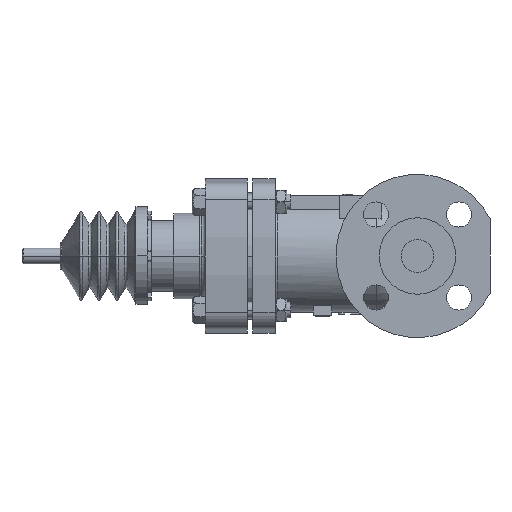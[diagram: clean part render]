
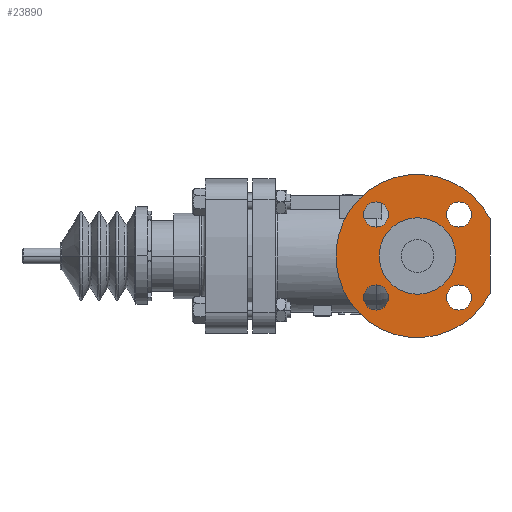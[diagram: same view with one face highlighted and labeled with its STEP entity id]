
A CAD part, left-side view. The second image highlights one B-rep face of the part: STEP entity #23890.
In plain terms, the highlighted planar face has unit normal (-1, 0, 0).
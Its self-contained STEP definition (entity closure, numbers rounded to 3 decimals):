
#7134=CARTESIAN_POINT('',(-88.,0.,0.));
#7135=DIRECTION('',(1.,0.,0.));
#7136=DIRECTION('',(0.,1.,0.));
#7137=AXIS2_PLACEMENT_3D('',#7134,#7135,#7136);
#7139=CARTESIAN_POINT('',(-88.,0.,0.));
#7140=DIRECTION('',(-1.,0.,0.));
#7141=DIRECTION('',(0.,1.,0.));
#7142=AXIS2_PLACEMENT_3D('',#7139,#7140,#7141);
#7144=DIRECTION('',(0.,0.,1.));
#7145=VECTOR('',#7144,56.802);
#7146=CARTESIAN_POINT('',(-88.,-55.,-28.401));
#7147=LINE('',#7146,#7145);
#7148=CARTESIAN_POINT('',(-88.,31.466,31.466));
#7149=DIRECTION('',(1.,0.,0.));
#7150=DIRECTION('',(0.,1.,0.));
#7151=AXIS2_PLACEMENT_3D('',#7148,#7149,#7150);
#7153=CARTESIAN_POINT('',(-88.,31.466,31.466));
#7154=DIRECTION('',(1.,0.,0.));
#7155=DIRECTION('',(0.,-1.,0.));
#7156=AXIS2_PLACEMENT_3D('',#7153,#7154,#7155);
#7158=CARTESIAN_POINT('',(-88.,31.466,-31.466));
#7159=DIRECTION('',(1.,0.,0.));
#7160=DIRECTION('',(0.,0.,-1.));
#7161=AXIS2_PLACEMENT_3D('',#7158,#7159,#7160);
#7163=CARTESIAN_POINT('',(-88.,31.466,-31.466));
#7164=DIRECTION('',(1.,0.,0.));
#7165=DIRECTION('',(0.,0.,1.));
#7166=AXIS2_PLACEMENT_3D('',#7163,#7164,#7165);
#7168=CARTESIAN_POINT('',(-88.,-31.466,-31.466));
#7169=DIRECTION('',(1.,0.,0.));
#7170=DIRECTION('',(0.,-1.,0.));
#7171=AXIS2_PLACEMENT_3D('',#7168,#7169,#7170);
#7173=CARTESIAN_POINT('',(-88.,-31.466,-31.466));
#7174=DIRECTION('',(1.,0.,0.));
#7175=DIRECTION('',(0.,1.,0.));
#7176=AXIS2_PLACEMENT_3D('',#7173,#7174,#7175);
#7178=CARTESIAN_POINT('',(-88.,-31.466,31.466));
#7179=DIRECTION('',(1.,0.,0.));
#7180=DIRECTION('',(0.,0.,1.));
#7181=AXIS2_PLACEMENT_3D('',#7178,#7179,#7180);
#7183=CARTESIAN_POINT('',(-88.,-31.466,31.466));
#7184=DIRECTION('',(1.,0.,0.));
#7185=DIRECTION('',(0.,0.,-1.));
#7186=AXIS2_PLACEMENT_3D('',#7183,#7184,#7185);
#7393=CARTESIAN_POINT('',(-88.,0.,0.));
#7394=DIRECTION('',(-1.,0.,0.));
#7395=DIRECTION('',(0.,-0.889,0.459));
#7396=AXIS2_PLACEMENT_3D('',#7393,#7394,#7395);
#10357=CARTESIAN_POINT('',(-88.,29.,0.));
#10359=VERTEX_POINT('',#10357);
#10365=CARTESIAN_POINT('',(-88.,-29.,0.));
#10367=VERTEX_POINT('',#10365);
#10746=CARTESIAN_POINT('',(-88.,-55.,-28.401));
#10747=CARTESIAN_POINT('',(-88.,-55.,28.401));
#10748=VERTEX_POINT('',#10746);
#10749=VERTEX_POINT('',#10747);
#10877=CARTESIAN_POINT('',(-88.,40.966,31.466));
#10878=CARTESIAN_POINT('',(-88.,21.966,31.466));
#10879=VERTEX_POINT('',#10877);
#10880=VERTEX_POINT('',#10878);
#10885=CARTESIAN_POINT('',(-88.,31.466,-40.966));
#10886=CARTESIAN_POINT('',(-88.,31.466,-21.966));
#10887=VERTEX_POINT('',#10885);
#10888=VERTEX_POINT('',#10886);
#10893=CARTESIAN_POINT('',(-88.,-40.966,-31.466));
#10894=CARTESIAN_POINT('',(-88.,-21.966,-31.466));
#10895=VERTEX_POINT('',#10893);
#10896=VERTEX_POINT('',#10894);
#10901=CARTESIAN_POINT('',(-88.,-31.466,40.966));
#10902=CARTESIAN_POINT('',(-88.,-31.466,21.966));
#10903=VERTEX_POINT('',#10901);
#10904=VERTEX_POINT('',#10902);
#23850=CARTESIAN_POINT('',(-88.,0.,0.));
#23851=DIRECTION('',(-1.,0.,0.));
#23852=DIRECTION('',(0.,-1.,0.));
#23853=AXIS2_PLACEMENT_3D('',#23850,#23851,#23852);
#23854=PLANE('',#23853);
#23855=ORIENTED_EDGE('',*,*,#23824,.F.);
#23857=ORIENTED_EDGE('',*,*,#23856,.F.);
#23858=EDGE_LOOP('',(#23855,#23857));
#23859=FACE_OUTER_BOUND('',#23858,.F.);
#23861=ORIENTED_EDGE('',*,*,#23860,.F.);
#23863=ORIENTED_EDGE('',*,*,#23862,.T.);
#23864=EDGE_LOOP('',(#23861,#23863));
#23865=FACE_BOUND('',#23864,.F.);
#23867=ORIENTED_EDGE('',*,*,#23866,.F.);
#23869=ORIENTED_EDGE('',*,*,#23868,.F.);
#23870=EDGE_LOOP('',(#23867,#23869));
#23871=FACE_BOUND('',#23870,.F.);
#23873=ORIENTED_EDGE('',*,*,#23872,.F.);
#23875=ORIENTED_EDGE('',*,*,#23874,.F.);
#23876=EDGE_LOOP('',(#23873,#23875));
#23877=FACE_BOUND('',#23876,.F.);
#23879=ORIENTED_EDGE('',*,*,#23878,.F.);
#23881=ORIENTED_EDGE('',*,*,#23880,.F.);
#23882=EDGE_LOOP('',(#23879,#23881));
#23883=FACE_BOUND('',#23882,.F.);
#23885=ORIENTED_EDGE('',*,*,#23884,.F.);
#23887=ORIENTED_EDGE('',*,*,#23886,.F.);
#23888=EDGE_LOOP('',(#23885,#23887));
#23889=FACE_BOUND('',#23888,.F.);
#23890=ADVANCED_FACE('',(#23859,#23865,#23871,#23877,#23883,#23889),#23854,.T.);
#7138=CIRCLE('',#7137,29.);
#7143=CIRCLE('',#7142,29.);
#7152=CIRCLE('',#7151,9.5);
#7157=CIRCLE('',#7156,9.5);
#7162=CIRCLE('',#7161,9.5);
#7167=CIRCLE('',#7166,9.5);
#7172=CIRCLE('',#7171,9.5);
#7177=CIRCLE('',#7176,9.5);
#7182=CIRCLE('',#7181,9.5);
#7187=CIRCLE('',#7186,9.5);
#7397=CIRCLE('',#7396,61.9);
#23824=EDGE_CURVE('',#10748,#10749,#7147,.T.);
#23856=EDGE_CURVE('',#10749,#10748,#7397,.T.);
#23860=EDGE_CURVE('',#10359,#10367,#7138,.T.);
#23862=EDGE_CURVE('',#10359,#10367,#7143,.T.);
#23866=EDGE_CURVE('',#10879,#10880,#7152,.T.);
#23868=EDGE_CURVE('',#10880,#10879,#7157,.T.);
#23872=EDGE_CURVE('',#10887,#10888,#7162,.T.);
#23874=EDGE_CURVE('',#10888,#10887,#7167,.T.);
#23878=EDGE_CURVE('',#10895,#10896,#7172,.T.);
#23880=EDGE_CURVE('',#10896,#10895,#7177,.T.);
#23884=EDGE_CURVE('',#10903,#10904,#7182,.T.);
#23886=EDGE_CURVE('',#10904,#10903,#7187,.T.);
